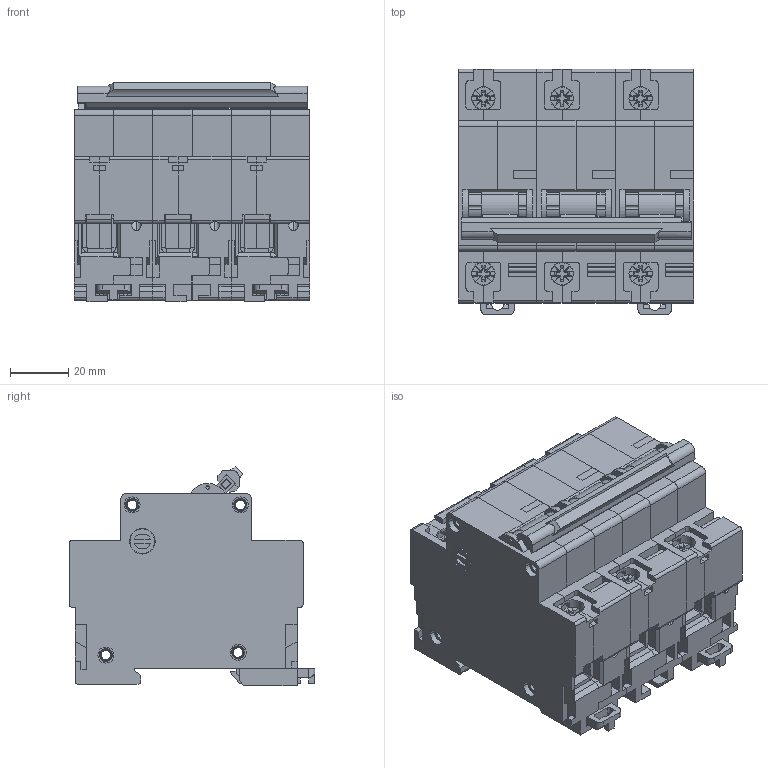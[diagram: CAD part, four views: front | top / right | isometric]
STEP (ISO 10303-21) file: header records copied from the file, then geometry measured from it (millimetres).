
FILE_DESCRIPTION (( 'STEP AP214' ), '1' );
FILE_NAME ('臍47-100 3 瀁錌黟.STEP', '2022-11-18T09:47:41', ( '' ), ( '' ), 'SwSTEP 2.0', 'SolidWorks 2018', '' );
FILE_SCHEMA (( 'AUTOMOTIVE_DESIGN' ));
Length unit declared in the file: millimetre
Products named in the file (16): Çàêëåïêà ÂÀ47-100_1-å; ÂÀ47-100-1_1 ¤«ï 3; ÂÀ47-100-1_1å ¡¥§ § é¥«ª¨; Áîêîâèíà ïðàâàÿ ÂÀ47-100; Êîëîäêà ÂÀ47-100; ﾂ鏆鮏 ﾂﾀ47-100; Áîêîâèíà ëåâàÿ ÂÀ47-100; 鎔艜 臍47-100; Ñêîáà (ÂÀ47-100 OFA) 04.2022_3 ¯®«îá ; 臍47-100 3 瀁錌黟; 栺樏鋋 鴈儰罻襜譇 臍47-100; Ðó÷êà ÂÀ47-100; ﾂﾀ47-100-1_尚皚･､ｭｨｩ ｯｮｫ髜; 青汶篪赅 (吕47-29) 14.02.2022; Çàêëåïêà ÂÀ47-100_3-å; Çàù¸ëêà ÂÀ47-100_¤«ï á¡®àª¨
Assembly tree (50 placements, depth 3):
  臍47-100 3 瀁錌黟
    ÂÀ47-100-1_1 ¤«ï 3
      Áîêîâèíà ëåâàÿ ÂÀ47-100
      Áîêîâèíà ïðàâàÿ ÂÀ47-100
      Çàù¸ëêà ÂÀ47-100_¤«ï á¡®àª¨
      Çàêëåïêà ÂÀ47-100_3-å  x4
      青汶篪赅 (吕47-29) 14.02.2022  x2
      Ðó÷êà ÂÀ47-100
      鎔艜 臍47-100  x2
      Êîëîäêà ÂÀ47-100  x2
      栺樏鋋 鴈儰罻襜譇 臍47-100
      ﾂ鏆鮏 ﾂﾀ47-100  x2
    ÂÀ47-100-1_1å ¡¥§ § é¥«ª¨
      Áîêîâèíà ëåâàÿ ÂÀ47-100
      Áîêîâèíà ïðàâàÿ ÂÀ47-100
      Çàêëåïêà ÂÀ47-100_1-å  x4
      青汶篪赅 (吕47-29) 14.02.2022  x2
      Ðó÷êà ÂÀ47-100
      鎔艜 臍47-100  x2
      Êîëîäêà ÂÀ47-100  x2
      栺樏鋋 鴈儰罻襜譇 臍47-100
      ﾂ鏆鮏 ﾂﾀ47-100  x2
    ﾂﾀ47-100-1_尚皚･､ｭｨｩ ｯｮｫ髜
      Áîêîâèíà ëåâàÿ ÂÀ47-100
      Áîêîâèíà ïðàâàÿ ÂÀ47-100
      Çàù¸ëêà ÂÀ47-100_¤«ï á¡®àª¨
      青汶篪赅 (吕47-29) 14.02.2022  x2
      Ðó÷êà ÂÀ47-100
      鎔艜 臍47-100  x2
      Êîëîäêà ÂÀ47-100  x2
      栺樏鋋 鴈儰罻襜譇 臍47-100
      ﾂ鏆鮏 ﾂﾀ47-100  x2
    Ñêîáà (ÂÀ47-100 OFA) 04.2022_3 ¯®«îá 
Bounding box: 81 x 84.3 x 75.34 mm (x, y, z)
Volume: 299460 mm3; surface area: 123411.8 mm2
Topology: 47 solids, 47 shells, 2500 faces, 6605 edges, 4263 vertices
Faces by surface type: plane 1832, cylinder 580, torus 88
Entity records: 22894 total; most frequent: CARTESIAN_POINT 4034, ORIENTED_EDGE 3802, DIRECTION 3776, EDGE_CURVE 1901, LINE 1468, VECTOR 1468, VERTEX_POINT 1236, AXIS2_PLACEMENT_3D 1154
